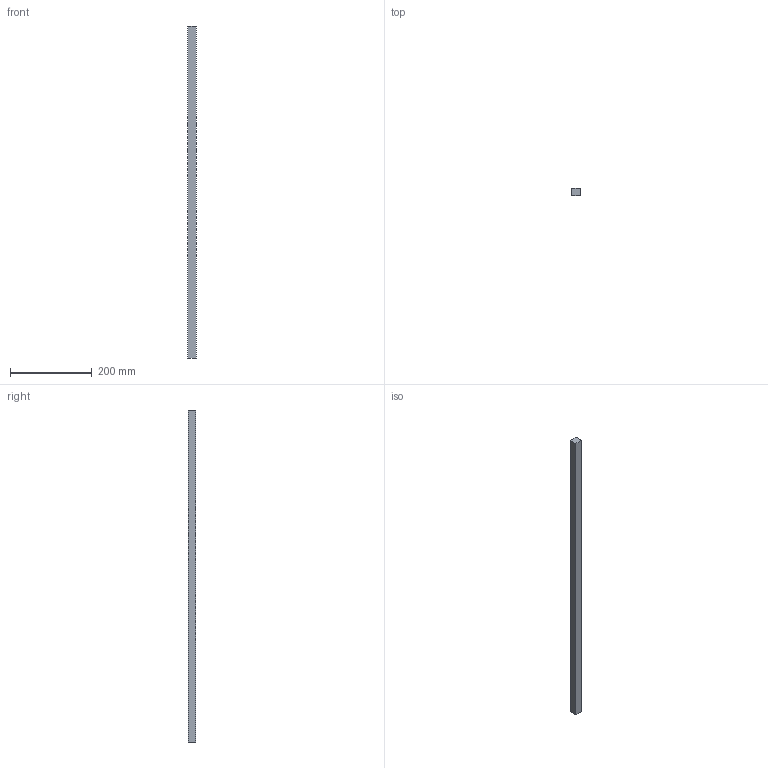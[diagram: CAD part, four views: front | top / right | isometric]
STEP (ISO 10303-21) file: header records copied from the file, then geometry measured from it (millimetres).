
FILE_DESCRIPTION(('Open CASCADE Model'),'2;1');
FILE_NAME('Open CASCADE Shape Model','2026-10-16T18:52:00',('Author'),( 'Open CASCADE'),'Open CASCADE STEP processor 7.8','Open CASCADE 7.8' ,'Unknown');
FILE_SCHEMA(('AUTOMOTIVE_DESIGN { 1 0 10303 214 1 1 1 1 }'));
Length unit declared in the file: millimetre
Products named in the file (1): Open CASCADE STEP translator 7.8 62
Bounding box: 20 x 18 x 810 mm (x, y, z)
Volume: 291600 mm3; surface area: 62280 mm2
Topology: 1 solids, 1 shells, 6 faces, 12 edges, 8 vertices
Faces by surface type: plane 6
Entity records: 322 total; most frequent: CARTESIAN_POINT 51, DIRECTION 50, LINE 36, VECTOR 36, ORIENTED_EDGE 24, PCURVE 24, DEFINITIONAL_REPRESENTATION 24, EDGE_CURVE 12
